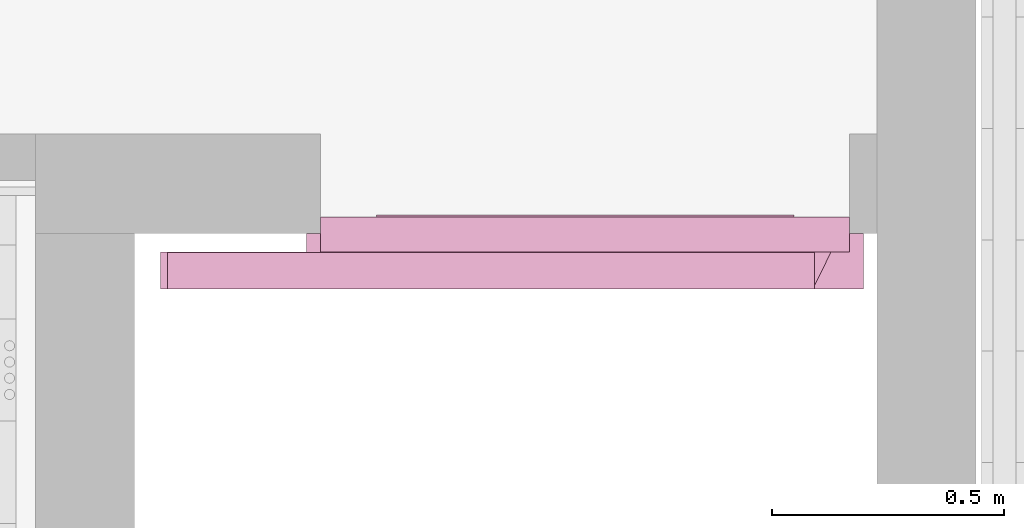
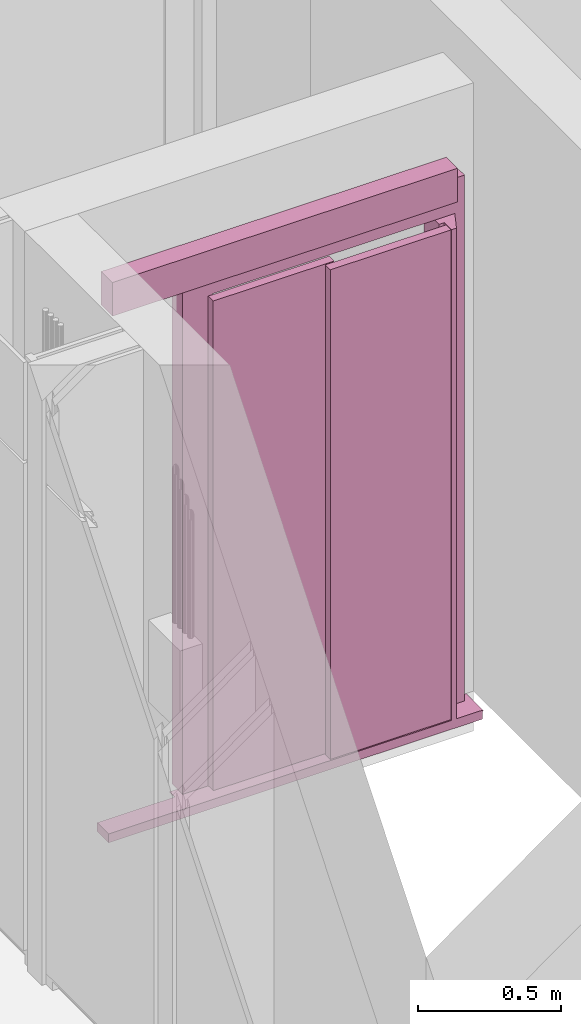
# One storey, part 20 of 22: 1 transport element.
"""IFC2X3 building model written with IfcOpenShell, lengths in millimetres."""

from ifc_helpers import new_model, entity, si_unit, converted_unit, derived_unit, money_unit, direction, frame, origin_with_axes, place, context, subcontext, project, spatial, faceted_brep, source, transform, mapped, material, type_object, type_shapes, element, save


model = new_model("IFC2X3")

# Units and contexts
model_context = context("Model", 3, precision=0.01, world=origin_with_axes(), true_north=direction((0.0, 1.0)))
body_context = subcontext(model_context, "Body", "Model", "MODEL_VIEW")
ifc_project = project(units=[si_unit("LENGTHUNIT", "METRE", prefix="MILLI"), si_unit("AREAUNIT", "SQUARE_METRE"), si_unit("VOLUMEUNIT", "CUBIC_METRE"), converted_unit("PLANEANGLEUNIT", "DEGREE", entity("IfcPlaneAngleMeasure", 0.0174532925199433), si_unit("PLANEANGLEUNIT", "RADIAN"), dimensions=[0, 0, 0, 0, 0, 0, 0]), money_unit("EUR"), converted_unit("TIMEUNIT", "Year", entity("IfcTimeMeasure", 31557600.0), si_unit("TIMEUNIT", "SECOND"), dimensions=[0, 0, 1, 0, 0, 0, 0]), si_unit("MASSUNIT", "GRAM", prefix="KILO"), si_unit("THERMODYNAMICTEMPERATUREUNIT", "DEGREE_CELSIUS"), si_unit("LUMINOUSINTENSITYUNIT", "LUMEN"), si_unit("ENERGYUNIT", "JOULE", prefix="MEGA"), derived_unit("THERMALCONDUCTANCEUNIT", [(si_unit("POWERUNIT", "WATT"), 1), (si_unit("LENGTHUNIT", "METRE"), -1), (si_unit("THERMODYNAMICTEMPERATUREUNIT", "KELVIN"), -1)]), derived_unit("SPECIFICHEATCAPACITYUNIT", [(si_unit("ENERGYUNIT", "JOULE"), 1), (si_unit("MASSUNIT", "GRAM", prefix="KILO"), -1), (si_unit("THERMODYNAMICTEMPERATUREUNIT", "KELVIN"), -1)]), derived_unit("MASSDENSITYUNIT", [(si_unit("MASSUNIT", "GRAM", prefix="KILO"), 1), (si_unit("VOLUMEUNIT", "CUBIC_METRE"), -1)])], contexts=[model_context])

# Site, building, storey
site_placement = place(None, origin_with_axes())
site = spatial("IfcSite", under=ifc_project, at=site_placement, Name="Site", CompositionType="ELEMENT")
building_placement = place(site_placement, origin_with_axes())
building = spatial("IfcBuilding", under=site, at=building_placement, Name="Naam gebouw", CompositionType="ELEMENT")
storey_placement = place(building_placement, frame((0.0, 0.0, 8690.0), z_axis=(0.0, 0.0, 1.0), x_axis=(1.0, 0.0, 0.0)))
storey = spatial("IfcBuildingStorey", under=building, at=storey_placement, Name="2e verdieping V", CompositionType="ELEMENT", Elevation=8690.0)

# Transport element
ifc_material = material(Name="IFC Building Material")
transport_element_type = type_object("IfcTransportElementType", Name="KONE_LDO_Design_2R_P19:KONE_LDO_Design_2R_P19", PredefinedType="ELEVATOR")
shared_shape = source(origin_with_axes(), body_context, "Body", "Brep", [
    faceted_brep([(-18.25000000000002, -44.44382209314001, 8.5), (-18.25000000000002, -79.44382209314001, 8.5), (-18.25000000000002, -79.44382209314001, 2099.00000000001), (-18.25000000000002, -44.44382209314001, 2099.00000000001), (468.2500000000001, -44.44382209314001, 8.5), (468.2500000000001, -79.44382209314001, 8.5), (468.2500000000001, -79.44382209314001, 2099.00000000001), (468.2500000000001, -44.44382209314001, 2099.00000000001)], [[[0, 1, 2, 3]], [[0, 4, 5, 1]], [[1, 5, 6, 2]], [[3, 2, 6, 7]], [[4, 0, 3, 7]], [[5, 4, 7, 6]]]),
    faceted_brep([(-19.25000000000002, -79.44382209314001, 7.500000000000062), (-19.25000000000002, -79.44382209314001, 2100.0), (-19.25000000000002, -44.44382209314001, 2100.0), (-19.25000000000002, -44.44382209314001, 7.500000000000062), (469.25000692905, -79.44382209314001, 7.500000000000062), (469.25000692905, -79.44382209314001, 2100.0), (468.25001039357, -79.44382209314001, 2099.00000346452), (468.25001039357, -79.44382209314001, 8.499996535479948), (-18.25000346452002, -79.44382209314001, 8.499996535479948), (-18.25000346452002, -79.44382209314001, 2099.00000346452), (469.25000692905, -44.44382209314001, 2100.0), (469.25000692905, -44.44382209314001, 7.500000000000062), (468.25001039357, -44.44382209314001, 2099.00000346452), (-18.25000346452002, -44.44382209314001, 2099.00000346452), (-18.25000346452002, -44.44382209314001, 8.499996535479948), (468.25001039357, -44.44382209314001, 8.499996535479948)], [[[0, 1, 2, 3]], [[0, 4, 5, 1], [6, 7, 8, 9]], [[1, 5, 10, 2]], [[3, 2, 10, 11], [12, 13, 14, 15]], [[4, 0, 3, 11]], [[5, 4, 11, 10]], [[7, 6, 12, 15]], [[8, 7, 15, 14]], [[9, 8, 14, 13]], [[6, 9, 13, 12]]]),
    faceted_brep([(-468.2500000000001, -4.443822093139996, 8.5), (-468.2500000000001, -39.44382209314, 8.5), (-468.2500000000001, -39.44382209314, 2099.00000000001), (-468.2500000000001, -4.443822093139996, 2099.00000000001), (18.25000000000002, -4.443822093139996, 8.5), (18.25000000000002, -39.44382209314, 8.5), (18.25000000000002, -39.44382209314, 2099.00000000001), (18.25000000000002, -4.443822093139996, 2099.00000000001)], [[[0, 1, 2, 3]], [[0, 4, 5, 1]], [[1, 5, 6, 2]], [[3, 2, 6, 7]], [[4, 0, 3, 7]], [[5, 4, 7, 6]]]),
    faceted_brep([(-469.2500000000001, -39.44382209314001, 7.500000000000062), (-469.2500000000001, -39.44382209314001, 2100.0), (-469.2500000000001, -4.443822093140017, 2100.0), (-469.2500000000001, -4.443822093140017, 7.500000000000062), (19.25000692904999, -39.44382209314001, 7.500000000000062), (19.25000692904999, -39.44382209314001, 2100.0), (18.25001039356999, -39.44382209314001, 2099.00000346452), (18.25001039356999, -39.44382209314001, 8.499996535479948), (-468.25000346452, -39.44382209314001, 8.499996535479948), (-468.25000346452, -39.44382209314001, 2099.00000346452), (19.25000692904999, -4.443822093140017, 2100.0), (19.25000692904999, -4.443822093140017, 7.500000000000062), (18.25001039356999, -4.443822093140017, 2099.00000346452), (-468.25000346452, -4.443822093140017, 2099.00000346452), (-468.25000346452, -4.443822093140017, 8.499996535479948), (18.25001039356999, -4.443822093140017, 8.499996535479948)], [[[0, 1, 2, 3]], [[0, 4, 5, 1], [6, 7, 8, 9]], [[1, 5, 10, 2]], [[3, 2, 10, 11], [12, 13, 14, 15]], [[4, 0, 3, 11]], [[5, 4, 11, 10]], [[7, 6, 12, 15]], [[8, 7, 15, 14]], [[9, 8, 14, 13]], [[6, 9, 13, 12]]]),
    faceted_brep([(495.0, -0.9438220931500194, 2210.0), (-900.0, -0.9438220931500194, 2210.0), (-900.0, -0.9438220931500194, 2354.0), (495.0, -0.9438220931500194, 2354.0), (495.0, -79.44382209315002, 2210.0), (-900.0, -79.44382209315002, 2210.0), (-900.0, -79.44382209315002, 2354.0), (495.0, -79.44382209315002, 2354.0)], [[[0, 1, 2, 3]], [[0, 4, 5, 1]], [[1, 5, 6, 2]], [[3, 2, 6, 7]], [[4, 0, 3, 7]], [[5, 4, 7, 6]]]),
    faceted_brep([(570.0000000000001, 75.55617790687, 2100.0), (-570.0000000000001, 75.55617790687, 2100.0), (-570.0000000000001, 75.55617790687, 2250.0), (570.0000000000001, 75.55617790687, 2250.0), (570.0000000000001, 0.5561779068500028, 2100.0), (-570.0000000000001, 0.5561779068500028, 2100.0), (-570.0000000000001, 0.5561779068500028, 2250.0), (570.0000000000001, 0.5561779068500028, 2250.0)], [[[0, 1, 2, 3]], [[0, 4, 5, 1]], [[1, 5, 6, 2]], [[3, 2, 6, 7]], [[4, 0, 3, 7]], [[5, 4, 7, 6]]]),
    faceted_brep([(570.0000000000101, 0.556177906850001, 3.0), (570.0000000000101, 75.55617790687, 3.0), (570.0000000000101, 75.55617790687, 2100.0), (570.0000000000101, 0.556177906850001, 2100.0), (530.1666666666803, 0.556177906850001, 3.0), (491.0000000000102, -79.44382209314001, 3.0), (470.0000000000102, -79.44382209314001, 3.0), (470.0000000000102, -29.44382209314, 3.0), (450.0000000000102, -29.44382209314, 3.0), (450.0000000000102, 75.55617790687, 3.0), (450.0000000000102, 75.55617790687, 2100.0), (450.0000000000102, -29.44382209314, 2100.0), (470.0000000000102, -29.44382209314, 2100.0), (470.0000000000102, -79.44382209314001, 2100.0), (491.0000000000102, -79.44382209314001, 2100.0), (530.1666666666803, 0.556177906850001, 2100.0)], [[[0, 1, 2, 3]], [[0, 4, 5, 6, 7, 8, 9, 1]], [[1, 9, 10, 2]], [[3, 2, 10, 11, 12, 13, 14, 15]], [[4, 0, 3, 15]], [[5, 4, 15, 14]], [[6, 5, 14, 13]], [[7, 6, 13, 12]], [[8, 7, 12, 11]], [[9, 8, 11, 10]]]),
    faceted_brep([(-450.0, 75.55617790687, 3.0), (-570.0000000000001, 75.55617790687, 3.0), (-570.0000000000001, 75.55617790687, 2100.0), (-450.0, 75.55617790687, 2100.0), (-450.0, 0.5561779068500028, 3.0), (-570.0000000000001, 0.5561779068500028, 3.0), (-570.0000000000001, 0.5561779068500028, 2100.0), (-450.0, 0.5561779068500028, 2100.0)], [[[0, 1, 2, 3]], [[0, 4, 5, 1]], [[1, 5, 6, 2]], [[3, 2, 6, 7]], [[4, 0, 3, 7]], [[5, 4, 7, 6]]]),
    faceted_brep([(595.0000000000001, 0.5561779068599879, -34.99999999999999), (-915.0000000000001, 0.5561779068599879, -34.99999999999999), (-915.0000000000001, 0.5561779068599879, 3.000000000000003), (595.0000000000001, 0.5561779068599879, 3.000000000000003), (595.0000000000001, -79.44382209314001, -34.99999999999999), (-915.0000000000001, -79.44382209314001, -34.99999999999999), (-915.0000000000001, -79.44382209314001, 3.000000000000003), (595.0000000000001, -79.44382209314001, 3.000000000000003)], [[[0, 1, 2, 3]], [[0, 4, 5, 1]], [[1, 5, 6, 2]], [[3, 2, 6, 7]], [[4, 0, 3, 7]], [[5, 4, 7, 6]]]),
    faceted_brep([(-450.0, 0.5561779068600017, 0.0), (-450.0, 80.55617790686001, 0.0), (450.0, 80.55617790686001, 0.0), (450.0, 0.5561779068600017, 0.0), (-450.0, 0.5561779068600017, 3.0), (-450.0, 70.55617790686, 3.0), (-450.0, 80.55617790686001, 1.19999999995), (450.0, 80.55617790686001, 1.19999999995), (450.0, 70.55617790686, 3.0), (450.0, 0.5561779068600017, 3.0)], [[[0, 1, 2, 3]], [[0, 4, 5, 6, 1]], [[1, 6, 7, 2]], [[3, 2, 7, 8, 9]], [[4, 0, 3, 9]], [[5, 4, 9, 8]], [[6, 5, 8, 7]]]),
    faceted_brep([(600.0000000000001, 40.55617790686, -2.0), (-600.0000000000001, 40.55617790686, -2.0), (-600.0000000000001, 40.55617790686, 0.0), (600.0000000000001, 40.55617790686, 0.0), (600.0000000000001, -79.44382209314, -2.0), (-600.0000000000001, -79.44382209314, -2.0), (-600.0000000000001, -79.44382209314, 0.0), (600.0000000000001, -79.44382209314, 0.0)], [[[0, 1, 2, 3]], [[0, 4, 5, 1]], [[1, 5, 6, 2]], [[3, 2, 6, 7]], [[4, 0, 3, 7]], [[5, 4, 7, 6]]]),
])
type_shapes(transport_element_type, [shared_shape])
transport_element_placement = place(storey_placement, frame((32869.0000000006, 36759.35624842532, 0.0002659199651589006), z_axis=(0.0, 0.0, 1.0), x_axis=(1.0, 0.0, 0.0)))
element("IfcTransportElement", 1, at=transport_element_placement, inside=storey, type_object=transport_element_type, material=ifc_material, Name="KONE_LDO_Design_2R_P19:KONE_LDO_Design_2R_P19", ObjectType="ELEVATOR", context=body_context, shape_type="MappedRepresentation", body=[
    mapped(shared_shape, transform((0.0, 0.0, 0.0))),
])

save(model, "model.ifc")
